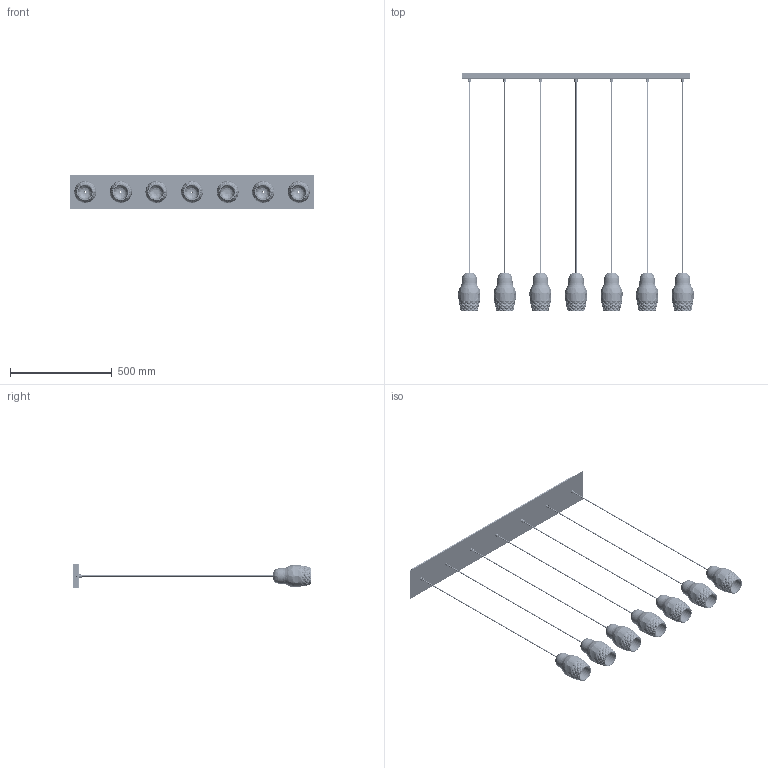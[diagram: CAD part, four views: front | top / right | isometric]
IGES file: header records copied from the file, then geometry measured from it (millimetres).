
Start section: SolidWorks IGES file using analytic representation for surfaces
Global section: file name: \\STORAGE\Tecnico Condiviso\1 FASCICOLI TECNICI\AXO DESIGN\AXO007-FEDORA\20150702-FEDORA CE\SP7\SW\SPFEDORA07-PER 3D.IGS; native system: SolidWorks 2024; preprocessor: SolidWorks 2024; author: tecnico3; date: 240529.171001; units: millimetre
Bounding box: 1200 x 1174.03 x 170 mm (x, y, z)
Surface area: 1865740.2 mm2 (no closed solid volume)
Topology: 0 solids, 0 shells, 2555 faces, 26565 edges, 26565 vertices
Faces by surface type: bspline 2246, revolution 309
